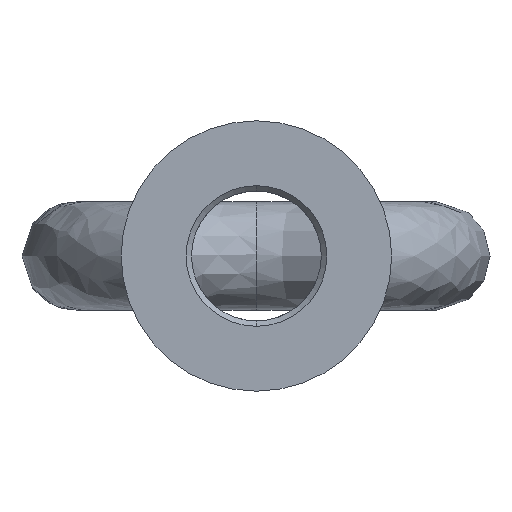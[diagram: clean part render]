
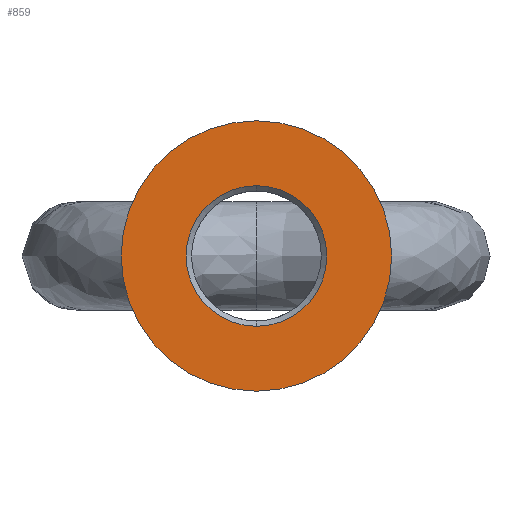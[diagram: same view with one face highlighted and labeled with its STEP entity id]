
A CAD part, front view. The second image highlights one B-rep face of the part: STEP entity #859.
In plain terms, the highlighted planar face has unit normal (0, -1, 0).
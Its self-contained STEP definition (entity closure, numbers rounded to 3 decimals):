
#36 = ORIENTED_EDGE ( 'NONE', *, *, #1284, .T. ) ;
#40 = CIRCLE ( 'NONE', #2571, 75. ) ;
#134 = DIRECTION ( 'NONE',  ( 0., 0., 1. ) ) ;
#228 = PLANE ( 'NONE',  #2074 ) ;
#244 = FACE_OUTER_BOUND ( 'NONE', #546, .T. ) ;
#316 = EDGE_CURVE ( 'NONE', #3325, #2921, #372, .T. ) ;
#372 = CIRCLE ( 'NONE', #2434, 39. ) ;
#476 = DIRECTION ( 'NONE',  ( 0., 0., -1. ) ) ;
#477 = FACE_BOUND ( 'NONE', #2087, .T. ) ;
#483 = EDGE_CURVE ( 'NONE', #1939, #3565, #3388, .T. ) ;
#544 = DIRECTION ( 'NONE',  ( 0., 0., 1. ) ) ;
#546 = EDGE_LOOP ( 'NONE', ( #1400, #2314 ) ) ;
#556 = CARTESIAN_POINT ( 'NONE',  ( 0., 0., -39. ) ) ;
#601 = ORIENTED_EDGE ( 'NONE', *, *, #316, .T. ) ;
#859 = ADVANCED_FACE ( 'NONE', ( #477, #244 ), #228, .T. ) ;
#896 = AXIS2_PLACEMENT_3D ( 'NONE', #2146, #3586, #1526 ) ;
#1024 = DIRECTION ( 'NONE',  ( 0., 1., 0. ) ) ;
#1284 = EDGE_CURVE ( 'NONE', #2921, #3325, #2374, .T. ) ;
#1400 = ORIENTED_EDGE ( 'NONE', *, *, #2769, .F. ) ;
#1460 = CARTESIAN_POINT ( 'NONE',  ( 0., 0., -75. ) ) ;
#1526 = DIRECTION ( 'NONE',  ( 0., 0., -1. ) ) ;
#1628 = DIRECTION ( 'NONE',  ( 0., 0., -1. ) ) ;
#1827 = CARTESIAN_POINT ( 'NONE',  ( 0., 0., 0. ) ) ;
#1939 = VERTEX_POINT ( 'NONE', #3217 ) ;
#1942 = DIRECTION ( 'NONE',  ( 0., -1., 0. ) ) ;
#2074 = AXIS2_PLACEMENT_3D ( 'NONE', #3660, #1942, #1628 ) ;
#2087 = EDGE_LOOP ( 'NONE', ( #601, #36 ) ) ;
#2146 = CARTESIAN_POINT ( 'NONE',  ( 0., 0., 0. ) ) ;
#2314 = ORIENTED_EDGE ( 'NONE', *, *, #483, .F. ) ;
#2374 = CIRCLE ( 'NONE', #896, 39. ) ;
#2434 = AXIS2_PLACEMENT_3D ( 'NONE', #1827, #3626, #476 ) ;
#2571 = AXIS2_PLACEMENT_3D ( 'NONE', #2663, #2642, #134 ) ;
#2642 = DIRECTION ( 'NONE',  ( 0., 1., 0. ) ) ;
#2663 = CARTESIAN_POINT ( 'NONE',  ( 0., 0., 0. ) ) ;
#2678 = CARTESIAN_POINT ( 'NONE',  ( 0., 0., 0. ) ) ;
#2769 = EDGE_CURVE ( 'NONE', #3565, #1939, #40, .T. ) ;
#2921 = VERTEX_POINT ( 'NONE', #3351 ) ;
#3032 = AXIS2_PLACEMENT_3D ( 'NONE', #2678, #1024, #544 ) ;
#3217 = CARTESIAN_POINT ( 'NONE',  ( 0., 0., 75. ) ) ;
#3325 = VERTEX_POINT ( 'NONE', #556 ) ;
#3351 = CARTESIAN_POINT ( 'NONE',  ( 0., 0., 39. ) ) ;
#3388 = CIRCLE ( 'NONE', #3032, 75. ) ;
#3565 = VERTEX_POINT ( 'NONE', #1460 ) ;
#3586 = DIRECTION ( 'NONE',  ( 0., 1., 0. ) ) ;
#3626 = DIRECTION ( 'NONE',  ( 0., 1., 0. ) ) ;
#3660 = CARTESIAN_POINT ( 'NONE',  ( 0., 0., 0. ) ) ;
